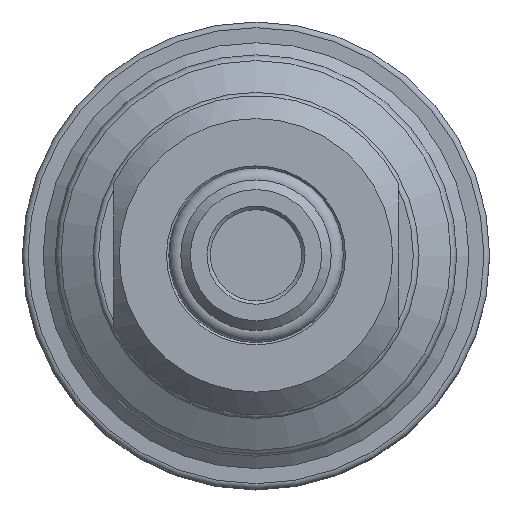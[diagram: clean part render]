
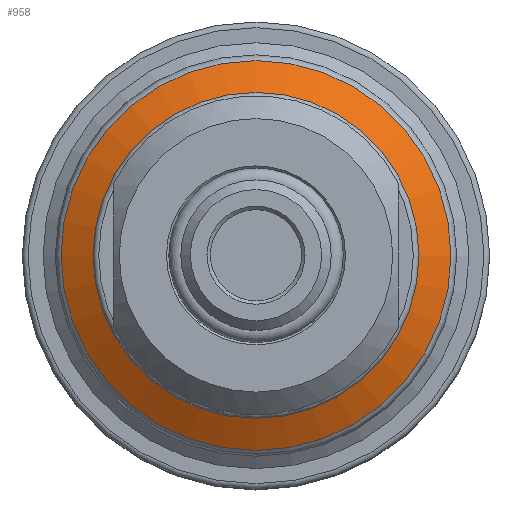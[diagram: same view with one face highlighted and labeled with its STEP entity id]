
A CAD part, top view. The second image highlights one B-rep face of the part: STEP entity #958.
In plain terms, the highlighted conical face has half-angle 59.976 degrees and reference radius 13.9 mm.
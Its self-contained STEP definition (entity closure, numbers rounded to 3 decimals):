
#958 = ADVANCED_FACE( '', ( #2334, #2335 ), #2336, .T. );
#2334 = FACE_OUTER_BOUND( '', #6216, .T. );
#2335 = FACE_BOUND( '', #6217, .T. );
#2336 = CONICAL_SURFACE( '', #6218, 13.9, 1.047 );
#6216 = EDGE_LOOP( '', ( #9546 ) );
#6217 = EDGE_LOOP( '', ( #9547 ) );
#6218 = AXIS2_PLACEMENT_3D( '', #9548, #9549, #9550 );
#9546 = ORIENTED_EDGE( '', *, *, #12788, .F. );
#9547 = ORIENTED_EDGE( '', *, *, #12789, .T. );
#9548 = CARTESIAN_POINT( '', ( 0., 0., 10.126 ) );
#9549 = DIRECTION( '', ( 0., 0., -1. ) );
#9550 = DIRECTION( '', ( -1., 0., 0. ) );
#12788 = EDGE_CURVE( '', #15199, #15199, #15200, .T. );
#12789 = EDGE_CURVE( '', #15201, #15201, #15202, .T. );
#15199 = VERTEX_POINT( '', #21717 );
#15200 = CIRCLE( '', #21718, 17.1 );
#15201 = VERTEX_POINT( '', #21719 );
#15202 = CIRCLE( '', #21720, 13.9 );
#21717 = CARTESIAN_POINT( '', ( -17.1, 0., 8.277 ) );
#21718 = AXIS2_PLACEMENT_3D( '', #24963, #24964, #24965 );
#21719 = CARTESIAN_POINT( '', ( -13.9, 0., 10.126 ) );
#21720 = AXIS2_PLACEMENT_3D( '', #24966, #24967, #24968 );
#24963 = CARTESIAN_POINT( '', ( 0., 0., 8.277 ) );
#24964 = DIRECTION( '', ( 0., 0., -1. ) );
#24965 = DIRECTION( '', ( -1., 0., 0. ) );
#24966 = CARTESIAN_POINT( '', ( 0., 0., 10.126 ) );
#24967 = DIRECTION( '', ( 0., 0., -1. ) );
#24968 = DIRECTION( '', ( -1., 0., 0. ) );
